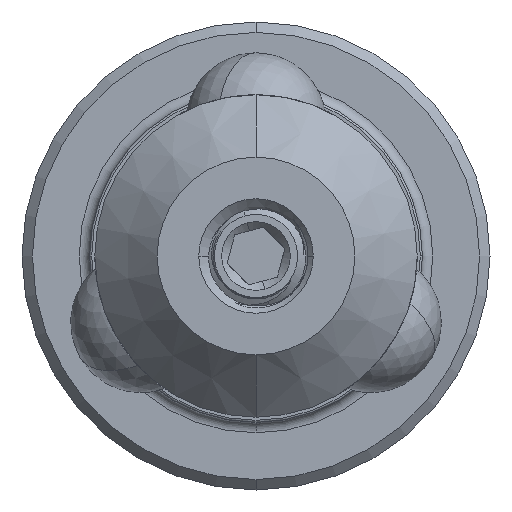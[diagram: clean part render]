
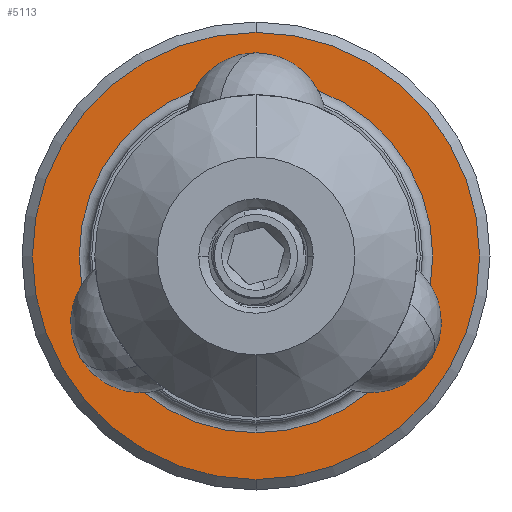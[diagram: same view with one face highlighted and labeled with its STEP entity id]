
A CAD part, front view. The second image highlights one B-rep face of the part: STEP entity #5113.
In plain terms, the highlighted planar face has unit normal (0, -1, 0).
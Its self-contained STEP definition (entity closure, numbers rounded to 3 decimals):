
#19 = DIRECTION ( 'NONE',  ( 0., 0., -1. ) ) ;
#31 = DIRECTION ( 'NONE',  ( 0., -1., 0. ) ) ;
#57 = CARTESIAN_POINT ( 'NONE',  ( 0., 43.8, 0. ) ) ;
#324 = DIRECTION ( 'NONE',  ( 0., -1., 0. ) ) ;
#797 = EDGE_CURVE ( 'NONE', #3257, #5709, #5242, .T. ) ;
#832 = CARTESIAN_POINT ( 'NONE',  ( 0., 43.8, 10.75 ) ) ;
#1616 = DIRECTION ( 'NONE',  ( 0., 0., 1. ) ) ;
#1817 = CIRCLE ( 'NONE', #9421, 8.5 ) ;
#1826 = EDGE_CURVE ( 'NONE', #5709, #3257, #1817, .T. ) ;
#2067 = CARTESIAN_POINT ( 'NONE',  ( 0., 43.8, -8.5 ) ) ;
#2604 = AXIS2_PLACEMENT_3D ( 'NONE', #3937, #9484, #4720 ) ;
#2744 = FACE_OUTER_BOUND ( 'NONE', #9657, .T. ) ;
#2852 = DIRECTION ( 'NONE',  ( 0., 0., -1. ) ) ;
#3149 = CARTESIAN_POINT ( 'NONE',  ( 0., 43.8, 0. ) ) ;
#3257 = VERTEX_POINT ( 'NONE', #2067 ) ;
#3372 = CARTESIAN_POINT ( 'NONE',  ( 0., 43.8, 0. ) ) ;
#3537 = CARTESIAN_POINT ( 'NONE',  ( 0., 43.8, -10.75 ) ) ;
#3565 = AXIS2_PLACEMENT_3D ( 'NONE', #4740, #6290, #1616 ) ;
#3670 = VERTEX_POINT ( 'NONE', #832 ) ;
#3743 = ORIENTED_EDGE ( 'NONE', *, *, #797, .F. ) ;
#3937 = CARTESIAN_POINT ( 'NONE',  ( 0., 43.8, 0. ) ) ;
#3968 = AXIS2_PLACEMENT_3D ( 'NONE', #57, #31, #19 ) ;
#4174 = DIRECTION ( 'NONE',  ( 0., 0., -1. ) ) ;
#4589 = ORIENTED_EDGE ( 'NONE', *, *, #1826, .F. ) ;
#4720 = DIRECTION ( 'NONE',  ( 0., 0., -1. ) ) ;
#4740 = CARTESIAN_POINT ( 'NONE',  ( -10.75, 43.8, 0. ) ) ;
#5113 = ADVANCED_FACE ( 'NONE', ( #9042, #2744 ), #5475, .F. ) ;
#5242 = CIRCLE ( 'NONE', #3968, 8.5 ) ;
#5475 = PLANE ( 'NONE',  #3565 ) ;
#5709 = VERTEX_POINT ( 'NONE', #10043 ) ;
#6004 = CIRCLE ( 'NONE', #8654, 10.75 ) ;
#6290 = DIRECTION ( 'NONE',  ( 0., 1., 0. ) ) ;
#7344 = CIRCLE ( 'NONE', #2604, 10.75 ) ;
#7592 = ORIENTED_EDGE ( 'NONE', *, *, #10206, .T. ) ;
#7642 = ORIENTED_EDGE ( 'NONE', *, *, #8895, .T. ) ;
#8654 = AXIS2_PLACEMENT_3D ( 'NONE', #3372, #8897, #4174 ) ;
#8895 = EDGE_CURVE ( 'NONE', #9795, #3670, #6004, .T. ) ;
#8897 = DIRECTION ( 'NONE',  ( 0., -1., 0. ) ) ;
#9042 = FACE_BOUND ( 'NONE', #9365, .T. ) ;
#9365 = EDGE_LOOP ( 'NONE', ( #3743, #4589 ) ) ;
#9421 = AXIS2_PLACEMENT_3D ( 'NONE', #3149, #324, #2852 ) ;
#9484 = DIRECTION ( 'NONE',  ( 0., -1., 0. ) ) ;
#9657 = EDGE_LOOP ( 'NONE', ( #7592, #7642 ) ) ;
#9795 = VERTEX_POINT ( 'NONE', #3537 ) ;
#10043 = CARTESIAN_POINT ( 'NONE',  ( 0., 43.8, 8.5 ) ) ;
#10206 = EDGE_CURVE ( 'NONE', #3670, #9795, #7344, .T. ) ;
